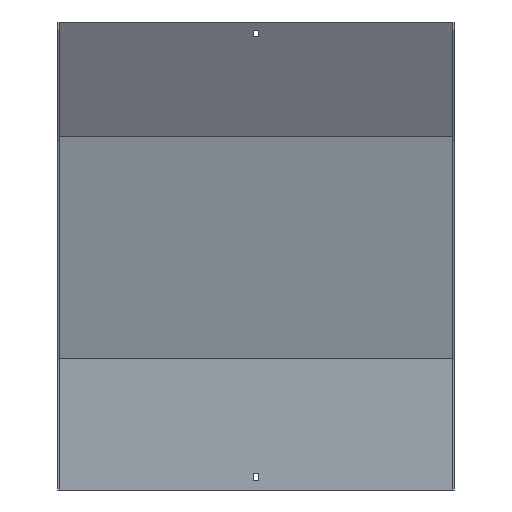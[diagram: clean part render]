
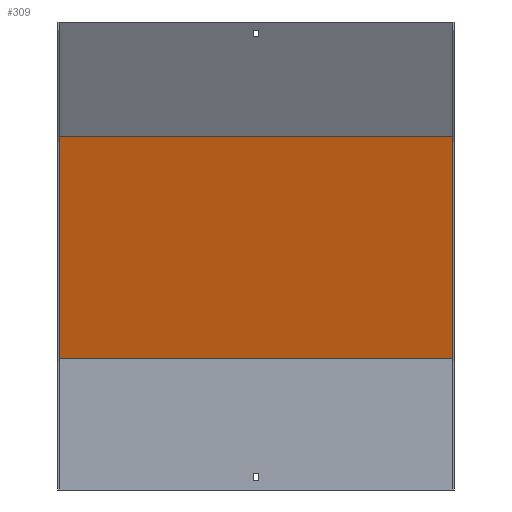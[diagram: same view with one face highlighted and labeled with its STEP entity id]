
A CAD part, front view. The second image highlights one B-rep face of the part: STEP entity #309.
In plain terms, the highlighted planar face has unit normal (0, -0.966, -0.259).
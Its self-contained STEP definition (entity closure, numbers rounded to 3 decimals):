
#5 = LINE ( 'NONE', #293, #778 ) ;
#16 = DIRECTION ( 'NONE',  ( -1., 0., 0. ) ) ;
#28 = VECTOR ( 'NONE', #339, 1000. ) ;
#50 = VERTEX_POINT ( 'NONE', #168 ) ;
#98 = DIRECTION ( 'NONE',  ( 0., 0.259, -0.966 ) ) ;
#133 = VECTOR ( 'NONE', #719, 1000. ) ;
#136 = LINE ( 'NONE', #469, #133 ) ;
#168 = CARTESIAN_POINT ( 'NONE',  ( 250., -57.301, 449.327 ) ) ;
#203 = DIRECTION ( 'NONE',  ( -1., 0., 0. ) ) ;
#226 = LINE ( 'NONE', #283, #715 ) ;
#233 = EDGE_LOOP ( 'NONE', ( #514, #686, #842, #805 ) ) ;
#246 = CARTESIAN_POINT ( 'NONE',  ( 251.5, 17.87, 168.788 ) ) ;
#253 = FACE_OUTER_BOUND ( 'NONE', #233, .T. ) ;
#267 = VERTEX_POINT ( 'NONE', #522 ) ;
#278 = CARTESIAN_POINT ( 'NONE',  ( -250., 18.5, 166.436 ) ) ;
#283 = CARTESIAN_POINT ( 'NONE',  ( 251.5, -57.301, 449.327 ) ) ;
#286 = AXIS2_PLACEMENT_3D ( 'NONE', #246, #651, #98 ) ;
#293 = CARTESIAN_POINT ( 'NONE',  ( 251.5, 18.5, 166.436 ) ) ;
#309 = ADVANCED_FACE ( 'NONE', ( #253 ), #530, .T. ) ;
#339 = DIRECTION ( 'NONE',  ( 0., -0.259, 0.966 ) ) ;
#351 = EDGE_CURVE ( 'NONE', #267, #544, #5, .T. ) ;
#406 = CARTESIAN_POINT ( 'NONE',  ( 250., 58.87, 15.774 ) ) ;
#469 = CARTESIAN_POINT ( 'NONE',  ( -250., 58.87, 15.774 ) ) ;
#514 = ORIENTED_EDGE ( 'NONE', *, *, #548, .F. ) ;
#522 = CARTESIAN_POINT ( 'NONE',  ( 250., 18.5, 166.436 ) ) ;
#530 = PLANE ( 'NONE',  #286 ) ;
#538 = CARTESIAN_POINT ( 'NONE',  ( -250., -57.301, 449.327 ) ) ;
#542 = EDGE_CURVE ( 'NONE', #267, #50, #780, .T. ) ;
#544 = VERTEX_POINT ( 'NONE', #278 ) ;
#548 = EDGE_CURVE ( 'NONE', #544, #718, #136, .T. ) ;
#651 = DIRECTION ( 'NONE',  ( 0., -0.966, -0.259 ) ) ;
#686 = ORIENTED_EDGE ( 'NONE', *, *, #351, .F. ) ;
#715 = VECTOR ( 'NONE', #16, 1000. ) ;
#718 = VERTEX_POINT ( 'NONE', #538 ) ;
#719 = DIRECTION ( 'NONE',  ( 0., -0.259, 0.966 ) ) ;
#778 = VECTOR ( 'NONE', #203, 1000. ) ;
#780 = LINE ( 'NONE', #406, #28 ) ;
#805 = ORIENTED_EDGE ( 'NONE', *, *, #824, .T. ) ;
#824 = EDGE_CURVE ( 'NONE', #50, #718, #226, .T. ) ;
#842 = ORIENTED_EDGE ( 'NONE', *, *, #542, .T. ) ;
